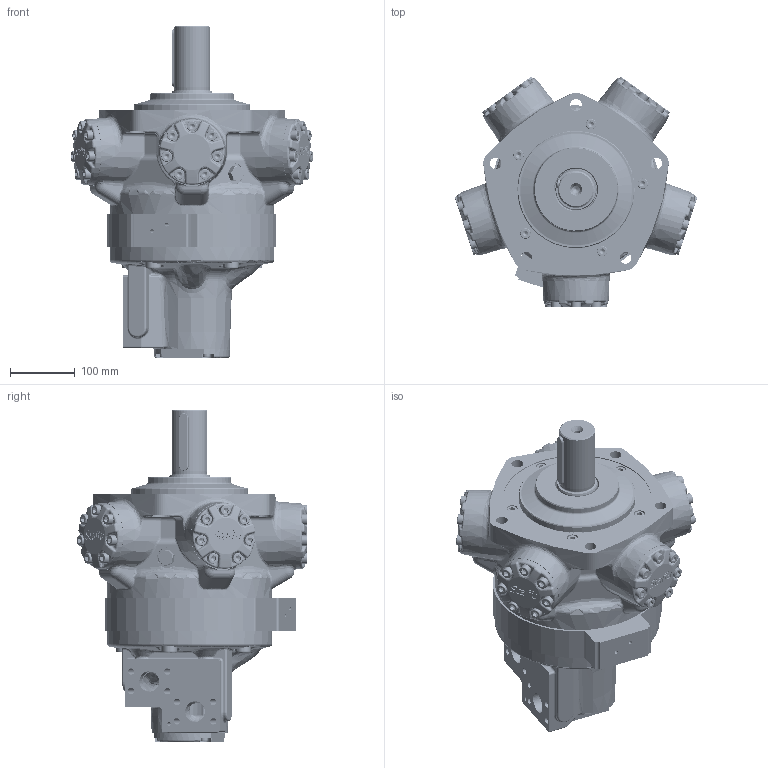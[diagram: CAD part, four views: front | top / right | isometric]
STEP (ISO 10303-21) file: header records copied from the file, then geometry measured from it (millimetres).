
FILE_DESCRIPTION(/* description */ (''),/* implementation_level */ '2;1');
FILE_NAME(/* name */ 'J:\3D Step files\Approved for WEB\Staffa\HMC030 P FM3 X 51.stp',/* time_stamp */ '2013-09-18T11:53:53+01:00',/* author */ ('mnorman'),/* organization */ (''),/* preprocessor_version */ 'ST-DEVELOPER v15.2',/* originating_system */ 'Autodesk Inventor 2014',/* authorisation */ '');
FILE_SCHEMA (('AUTOMOTIVE_DESIGN { 1 0 10303 214 3 1 1 }'));
Products named in the file (1): Part3
Bounding box: 373.47 x 355.31 x 511.15 mm (x, y, z)
Volume: 12234284.6 mm3; surface area: 1141650.7 mm2
Topology: 2 solids, 102 shells, 3838 faces, 9608 edges, 5983 vertices
Faces by surface type: plane 1252, bspline 1097, cylinder 633, torus 387, cone 328, sphere 141
Full cylindrical faces by diameter (mm): 3 x2, 6 x2, 6.2 x1, 7.938 x5, 8.382 x40, 8.731 x4, 10 x40, 10.109 x8, 10.5 x35, 10.8 x5, 11.328 x1, 11.913 x4, 12.7 x1, 13.614 x1, 14.351 x5, 14.656 x2, 14.961 x5, 15.875 x5, 16 x40, 16.272 x5, 16.5 x35, 16.7 x5, 17 x5, 17.78 x1, 18 x4, 18.5 x1, 22.2 x5, 23.825 x5, 25.4 x5, 27.68 x5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
Entity records: 160518 total; most frequent: CARTESIAN_POINT 78734, ORIENTED_EDGE 16678, DIRECTION 13706, EDGE_CURVE 8339, AXIS2_PLACEMENT_3D 5661, VERTEX_POINT 5590, EDGE_LOOP 4865, ADVANCED_FACE 3838
